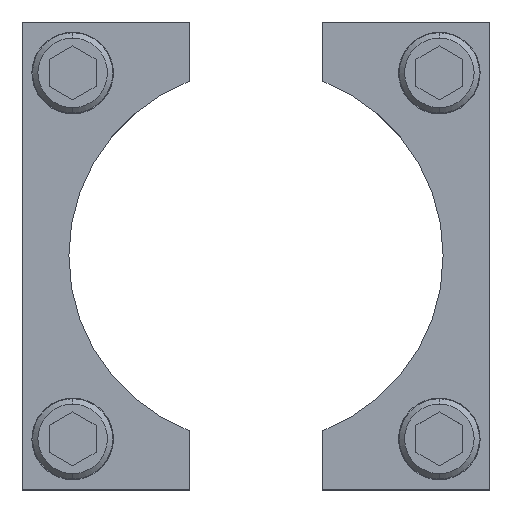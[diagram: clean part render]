
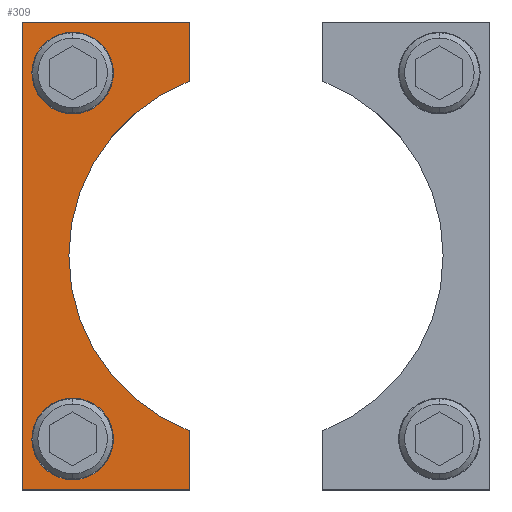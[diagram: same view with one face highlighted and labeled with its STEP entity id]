
A CAD part, top view. The second image highlights one B-rep face of the part: STEP entity #309.
In plain terms, the highlighted planar face has unit normal (0, 0, 1).
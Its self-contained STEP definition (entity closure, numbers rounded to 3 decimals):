
#175=FACE_BOUND('',#645,.T.);
#176=FACE_BOUND('',#646,.T.);
#177=FACE_BOUND('',#647,.T.);
#203=CIRCLE('',#2306,56.);
#204=CIRCLE('',#2307,9.);
#205=CIRCLE('',#2308,9.);
#206=CIRCLE('',#2309,9.);
#207=CIRCLE('',#2310,9.);
#309=ADVANCED_FACE('',(#175,#176,#177),#445,.T.);
#445=PLANE('',#2311);
#645=EDGE_LOOP('',(#804,#805,#806,#807,#808,#809,#810,#811));
#646=EDGE_LOOP('',(#812,#813));
#647=EDGE_LOOP('',(#814,#815));
#804=ORIENTED_EDGE('',*,*,#1607,.T.);
#805=ORIENTED_EDGE('',*,*,#1608,.T.);
#806=ORIENTED_EDGE('',*,*,#1609,.T.);
#807=ORIENTED_EDGE('',*,*,#1600,.T.);
#808=ORIENTED_EDGE('',*,*,#1605,.T.);
#809=ORIENTED_EDGE('',*,*,#1610,.T.);
#810=ORIENTED_EDGE('',*,*,#1611,.T.);
#811=ORIENTED_EDGE('',*,*,#1612,.T.);
#812=ORIENTED_EDGE('',*,*,#1613,.T.);
#813=ORIENTED_EDGE('',*,*,#1614,.T.);
#814=ORIENTED_EDGE('',*,*,#1615,.T.);
#815=ORIENTED_EDGE('',*,*,#1616,.T.);
#1404=VERTEX_POINT('',#3229);
#1405=VERTEX_POINT('',#3231);
#1409=VERTEX_POINT('',#3240);
#1410=VERTEX_POINT('',#3245);
#1411=VERTEX_POINT('',#3246);
#1412=VERTEX_POINT('',#3248);
#1413=VERTEX_POINT('',#3251);
#1414=VERTEX_POINT('',#3253);
#1415=VERTEX_POINT('',#3256);
#1416=VERTEX_POINT('',#3257);
#1417=VERTEX_POINT('',#3260);
#1418=VERTEX_POINT('',#3261);
#1600=EDGE_CURVE('',#1405,#1404,#1904,.T.);
#1605=EDGE_CURVE('',#1404,#1409,#1909,.T.);
#1607=EDGE_CURVE('',#1410,#1411,#1911,.T.);
#1608=EDGE_CURVE('',#1411,#1412,#203,.T.);
#1609=EDGE_CURVE('',#1412,#1405,#1912,.T.);
#1610=EDGE_CURVE('',#1409,#1413,#1913,.T.);
#1611=EDGE_CURVE('',#1413,#1414,#1914,.T.);
#1612=EDGE_CURVE('',#1414,#1410,#1915,.T.);
#1613=EDGE_CURVE('',#1415,#1416,#204,.T.);
#1614=EDGE_CURVE('',#1416,#1415,#205,.T.);
#1615=EDGE_CURVE('',#1417,#1418,#206,.T.);
#1616=EDGE_CURVE('',#1418,#1417,#207,.T.);
#1904=LINE('',#3230,#2104);
#1909=LINE('',#3241,#2109);
#1911=LINE('',#3244,#2111);
#1912=LINE('',#3249,#2112);
#1913=LINE('',#3250,#2113);
#1914=LINE('',#3252,#2114);
#1915=LINE('',#3254,#2115);
#2104=VECTOR('',#2547,1.);
#2109=VECTOR('',#2554,1.);
#2111=VECTOR('',#2558,1.);
#2112=VECTOR('',#2561,1.);
#2113=VECTOR('',#2562,1.);
#2114=VECTOR('',#2563,1.);
#2115=VECTOR('',#2564,1.);
#2306=AXIS2_PLACEMENT_3D('',#3247,#2559,#2560);
#2307=AXIS2_PLACEMENT_3D('',#3255,#2565,#2566);
#2308=AXIS2_PLACEMENT_3D('',#3258,#2567,#2568);
#2309=AXIS2_PLACEMENT_3D('',#3259,#2569,#2570);
#2310=AXIS2_PLACEMENT_3D('',#3262,#2571,#2572);
#2311=AXIS2_PLACEMENT_3D('',#3263,#2573,#2574);
#2547=DIRECTION('',(0.,1.,0.));
#2554=DIRECTION('',(-1.,0.,0.));
#2558=DIRECTION('',(0.,1.,0.));
#2559=DIRECTION('',(0.,0.,-1.));
#2560=DIRECTION('',(1.,0.,0.));
#2561=DIRECTION('',(0.,1.,0.));
#2562=DIRECTION('',(0.,-1.,0.));
#2563=DIRECTION('',(1.,0.,0.));
#2564=DIRECTION('',(0.,1.,0.));
#2565=DIRECTION('',(0.,0.,-1.));
#2566=DIRECTION('',(-1.,0.,0.));
#2567=DIRECTION('',(0.,0.,-1.));
#2568=DIRECTION('',(1.,0.,0.));
#2569=DIRECTION('',(0.,0.,-1.));
#2570=DIRECTION('',(-1.,0.,0.));
#2571=DIRECTION('',(0.,0.,-1.));
#2572=DIRECTION('',(1.,0.,0.));
#2573=DIRECTION('',(0.,0.,1.));
#2574=DIRECTION('',(0.,1.,0.));
#3229=CARTESIAN_POINT('',(-20.,70.,12.));
#3230=CARTESIAN_POINT('',(-20.,70.,12.));
#3231=CARTESIAN_POINT('',(-20.,56.569,12.));
#3240=CARTESIAN_POINT('',(-70.,70.,12.));
#3241=CARTESIAN_POINT('',(-20.,70.,12.));
#3244=CARTESIAN_POINT('',(-20.,-52.307,12.));
#3245=CARTESIAN_POINT('',(-20.,-56.569,12.));
#3246=CARTESIAN_POINT('',(-20.,-52.307,12.));
#3247=CARTESIAN_POINT('',(0.,0.,12.));
#3248=CARTESIAN_POINT('',(-20.,52.307,12.));
#3249=CARTESIAN_POINT('',(-20.,56.569,12.));
#3250=CARTESIAN_POINT('',(-70.,70.,12.));
#3251=CARTESIAN_POINT('',(-70.,-70.,12.));
#3252=CARTESIAN_POINT('',(-20.,-70.,12.));
#3253=CARTESIAN_POINT('',(-20.,-70.,12.));
#3254=CARTESIAN_POINT('',(-20.,-56.569,12.));
#3255=CARTESIAN_POINT('',(-54.852,-54.75,12.));
#3256=CARTESIAN_POINT('',(-54.852,-45.75,12.));
#3257=CARTESIAN_POINT('',(-54.852,-63.75,12.));
#3258=CARTESIAN_POINT('',(-54.852,-54.75,12.));
#3259=CARTESIAN_POINT('',(-54.852,54.75,12.));
#3260=CARTESIAN_POINT('',(-54.852,63.75,12.));
#3261=CARTESIAN_POINT('',(-54.852,45.75,12.));
#3262=CARTESIAN_POINT('',(-54.852,54.75,12.));
#3263=CARTESIAN_POINT('',(-20.,-56.569,12.));
